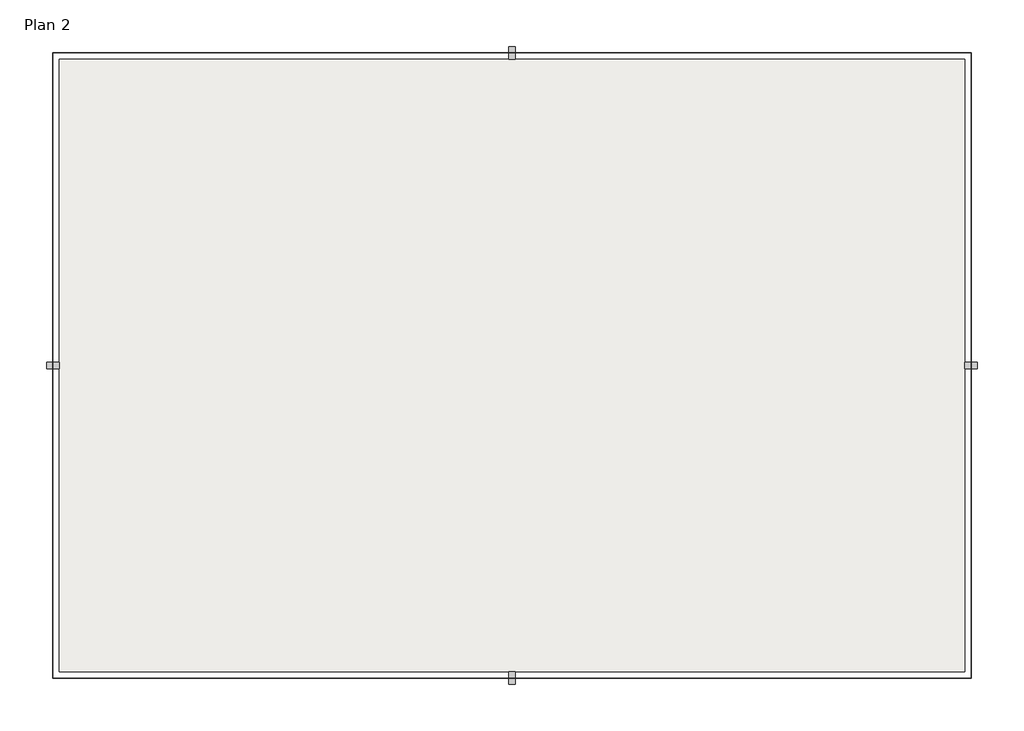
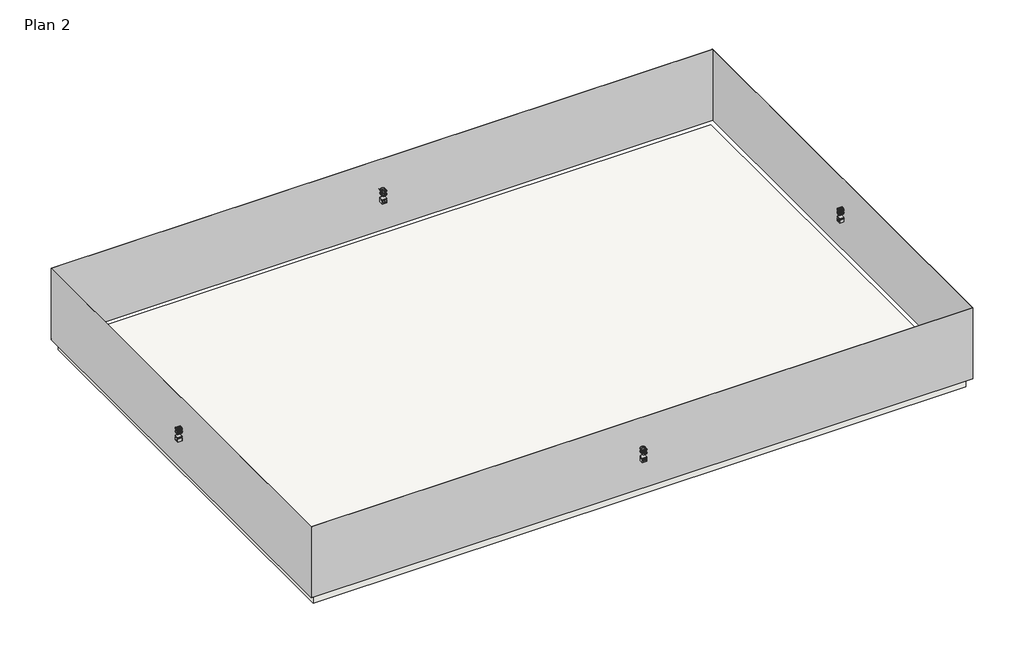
# One storey: 4 proxies, 1 slab.
"""IFC4 building model written with IfcOpenShell, lengths in millimetres."""

from ifc_helpers import new_model, si_unit, frame, origin, place, context, project, spatial, polyline, outline, extrude, transform, mapped, element, save
from components import ei60_fa00921c, ei60_9a6c1946

model = new_model("IFC4")

# Units and contexts
model_context = context("Model", 3, world=origin())
ifc_project = project(units=[si_unit("LENGTHUNIT", "METRE", prefix="MILLI")], contexts=[model_context])

# Site, building, storey
site = spatial("IfcSite", under=ifc_project)
building = spatial("IfcBuilding", under=site)
storey = spatial("IfcBuildingStorey", under=building, Name="Plan 2", Elevation=3000.0)

# Proxies
placement = place(None, origin())
ei60_shape = ei60_fa00921c(model_context)
element("IfcBuildingElementProxy", 1, Name="Fire_FireCompartmentationEI : EI60", ObjectType="Fire_FireCompartmentationEI : EI60", at=placement, inside=storey, context=model_context, shape_type="MappedRepresentation", body=[
    mapped(ei60_shape, transform((10000.0, 24947.5, 3000.0), x_axis=(1.0, 0.0, 0.0), y_axis=(0.0, 1.0, 0.0), z_axis=(0.0, 0.0, 1.0))),
])
element("IfcBuildingElementProxy", 2, Name="Fire_FireCompartmentationEI : EI60", ObjectType="Fire_FireCompartmentationEI : EI60", at=placement, inside=storey, context=model_context, shape_type="MappedRepresentation", body=[
    mapped(ei60_shape, transform((10000.0, 10000.0, 3000.0), x_axis=(1.0, 0.0, 0.0), y_axis=(0.0, 1.0, 0.0), z_axis=(0.0, 0.0, 1.0))),
])
ei60_2_shape = ei60_9a6c1946(model_context)
element("IfcBuildingElementProxy", 3, Name="Fire_FireCompartmentationEI : EI60", ObjectType="Fire_FireCompartmentationEI : EI60", at=placement, inside=storey, context=model_context, shape_type="MappedRepresentation", body=[
    mapped(ei60_2_shape, transform((10000.0, 24947.5, 3000.0), x_axis=(0.0, -1.0, 0.0), y_axis=(1.0, 0.0, 0.0), z_axis=(0.0, 0.0, 1.0))),
])
element("IfcBuildingElementProxy", 4, Name="Fire_FireCompartmentationEI : EI60", ObjectType="Fire_FireCompartmentationEI : EI60", at=placement, inside=storey, context=model_context, shape_type="MappedRepresentation", body=[
    mapped(ei60_2_shape, transform((31952.5, 10000.0, 3000.0), x_axis=(0.0, 1.0, 0.0), y_axis=(-1.0, 0.0, 0.0), z_axis=(0.0, 0.0, 1.0))),
])

# Slab
element("IfcSlab", 5, ObjectType="Bjälklag m golv 320 mm", at=placement, inside=storey, context=model_context, shape_type="SweptSolid", body=[
    extrude(outline(polyline([(10150.0, 24797.5), (31802.5, 24797.5), (31802.5, 10150.0), (10150.0, 10150.0), (10150.0, 24797.5)])), frame((0.0, 0.0, 2680.0), z_axis=(0.0, 0.0, 1.0), x_axis=(1.0, 0.0, 0.0)), (0.0, 0.0, 1.0), 320.0),
])

save(model, "model.ifc")
